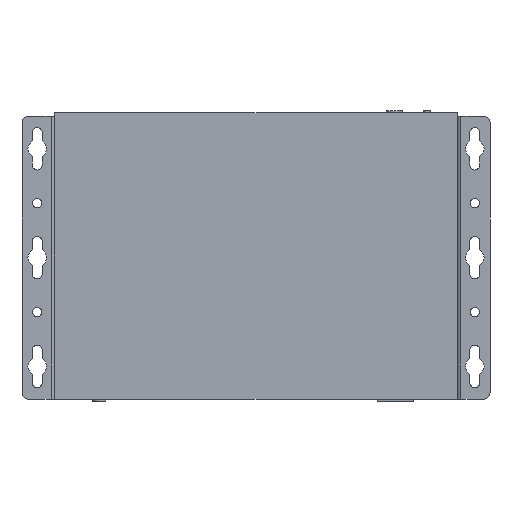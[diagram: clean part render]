
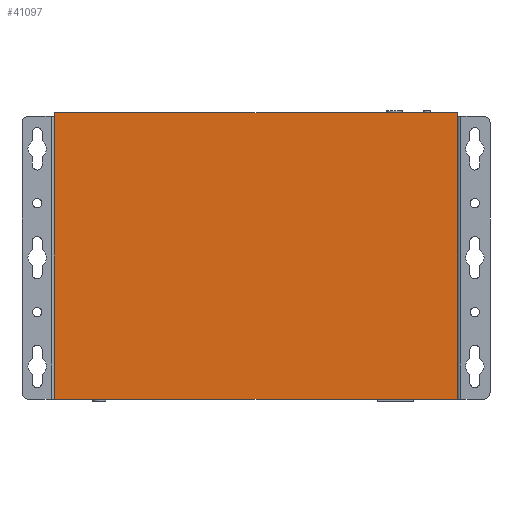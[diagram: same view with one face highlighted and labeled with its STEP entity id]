
A CAD part, front view. The second image highlights one B-rep face of the part: STEP entity #41097.
In plain terms, the highlighted planar face has unit normal (0, -1, 0).
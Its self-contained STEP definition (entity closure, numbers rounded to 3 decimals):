
#394 = VECTOR ( 'NONE', #49638, 1000. ) ;
#748 = ORIENTED_EDGE ( 'NONE', *, *, #25684, .T. ) ;
#2248 = LINE ( 'NONE', #49706, #41310 ) ;
#2898 = ORIENTED_EDGE ( 'NONE', *, *, #8252, .F. ) ;
#2972 = VECTOR ( 'NONE', #33120, 1000. ) ;
#6343 = LINE ( 'NONE', #29845, #46890 ) ;
#7913 = ORIENTED_EDGE ( 'NONE', *, *, #10170, .F. ) ;
#8252 = EDGE_CURVE ( 'NONE', #11311, #32737, #6343, .T. ) ;
#9947 = FACE_OUTER_BOUND ( 'NONE', #17439, .T. ) ;
#10170 = EDGE_CURVE ( 'NONE', #32737, #22604, #48259, .T. ) ;
#11311 = VERTEX_POINT ( 'NONE', #22855 ) ;
#11914 = EDGE_CURVE ( 'NONE', #11311, #15423, #2248, .T. ) ;
#14138 = LINE ( 'NONE', #42050, #394 ) ;
#15423 = VERTEX_POINT ( 'NONE', #34820 ) ;
#17439 = EDGE_LOOP ( 'NONE', ( #7913, #2898, #20192, #748 ) ) ;
#18072 = DIRECTION ( 'NONE',  ( 0., -1., 0. ) ) ;
#19315 = CARTESIAN_POINT ( 'NONE',  ( 92.5, -15.25, 0. ) ) ;
#20192 = ORIENTED_EDGE ( 'NONE', *, *, #11914, .T. ) ;
#21231 = CARTESIAN_POINT ( 'NONE',  ( -92.5, -15.25, -131.5 ) ) ;
#22604 = VERTEX_POINT ( 'NONE', #19315 ) ;
#22855 = CARTESIAN_POINT ( 'NONE',  ( -92.5, -15.25, -131.5 ) ) ;
#25684 = EDGE_CURVE ( 'NONE', #15423, #22604, #14138, .T. ) ;
#29845 = CARTESIAN_POINT ( 'NONE',  ( -92.5, -15.25, -131.5 ) ) ;
#32737 = VERTEX_POINT ( 'NONE', #45897 ) ;
#33120 = DIRECTION ( 'NONE',  ( 1., 0., 0. ) ) ;
#34820 = CARTESIAN_POINT ( 'NONE',  ( 92.5, -15.25, -131.5 ) ) ;
#36880 = AXIS2_PLACEMENT_3D ( 'NONE', #21231, #18072, #37109 ) ;
#37109 = DIRECTION ( 'NONE',  ( 1., 0., 0. ) ) ;
#40927 = CARTESIAN_POINT ( 'NONE',  ( -92.5, -15.25, 0. ) ) ;
#41097 = ADVANCED_FACE ( 'Face17', ( #9947 ), #45435, .T. ) ;
#41310 = VECTOR ( 'NONE', #42368, 1000. ) ;
#42050 = CARTESIAN_POINT ( 'NONE',  ( 92.5, -15.25, -131.5 ) ) ;
#42368 = DIRECTION ( 'NONE',  ( 1., 0., 0. ) ) ;
#45435 = PLANE ( 'NONE',  #36880 ) ;
#45897 = CARTESIAN_POINT ( 'NONE',  ( -92.5, -15.25, 0. ) ) ;
#46890 = VECTOR ( 'NONE', #50175, 1000. ) ;
#48259 = LINE ( 'NONE', #40927, #2972 ) ;
#49638 = DIRECTION ( 'NONE',  ( 0., 0., 1. ) ) ;
#49706 = CARTESIAN_POINT ( 'NONE',  ( -92.5, -15.25, -131.5 ) ) ;
#50175 = DIRECTION ( 'NONE',  ( 0., 0., 1. ) ) ;
